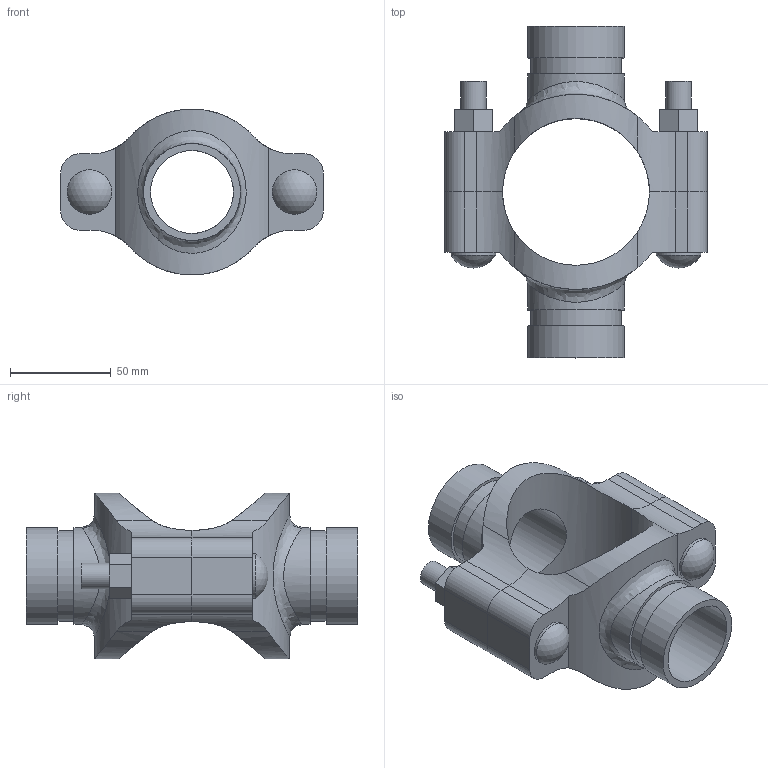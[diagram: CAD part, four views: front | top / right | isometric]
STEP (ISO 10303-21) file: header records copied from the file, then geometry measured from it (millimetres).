
FILE_DESCRIPTION(/* description */ ('VIC MECH-T BRANCH OUTLET CROSS STYLE 920N (GRVD)','CAx-IF Rec.Pracs.---Representation and Presentation of Product Manufacturing Information (PMI)---4.0---2014-10-13'),/* implementation_level */ '2;1');
FILE_NAME(/* name */ 'C:\Users\Vjadhav\AppData\Roaming\Autodesk\ApplicationPlugins\Back Up\Victaulic_IPS_Mechanical-Cross Outlet_Style 920N (OGS)\Victaulic_IPS_Mechanical-Cross Outlet_02.5x01.5x01.5 (65x40x40).stp',/* time_stamp */ '2020-08-06T19:43:13+05:00',/* author */ ('Vjadhav'),/* organization */ ('Victaulic'),/* preprocessor_version */ 'ST-DEVELOPER v17.2',/* originating_system */ 'Autodesk Inventor 2019',/* authorisation */ '');
FILE_SCHEMA (('AP242_MANAGED_MODEL_BASED_3D_ENGINEERING_MIM_LF { 1 0 10303 442 1 1 4 }'));
Length unit declared in the file: inch
Products named in the file (3): 920NG-02.5x01.5x01.5; 920NG-02.5x01.5x01.5_1; 920NG-02.5x01.5
Assembly tree (2 placements, depth 2):
  920NG-02.5x01.5x01.5
    920NG-02.5x01.5x01.5_1
    920NG-02.5x01.5
Bounding box: 130.56 x 165.1 x 82.55 mm (x, y, z)
Volume: 278674.6 mm3; surface area: 83964.4 mm2
Topology: 2 solids, 2 shells, 104 faces, 262 edges, 178 vertices
Faces by surface type: plane 54, cylinder 46, sphere 2, bspline 2
Full cylindrical faces by diameter (mm): 12.7 x4, 22.225 x2, 41.275 x2, 45.085 x2, 48.26 x4
Entity records: 4142 total; most frequent: CARTESIAN_POINT 1369, DIRECTION 532, ORIENTED_EDGE 524, EDGE_CURVE 262, AXIS2_PLACEMENT_3D 193, VERTEX_POINT 178, LINE 146, VECTOR 146
